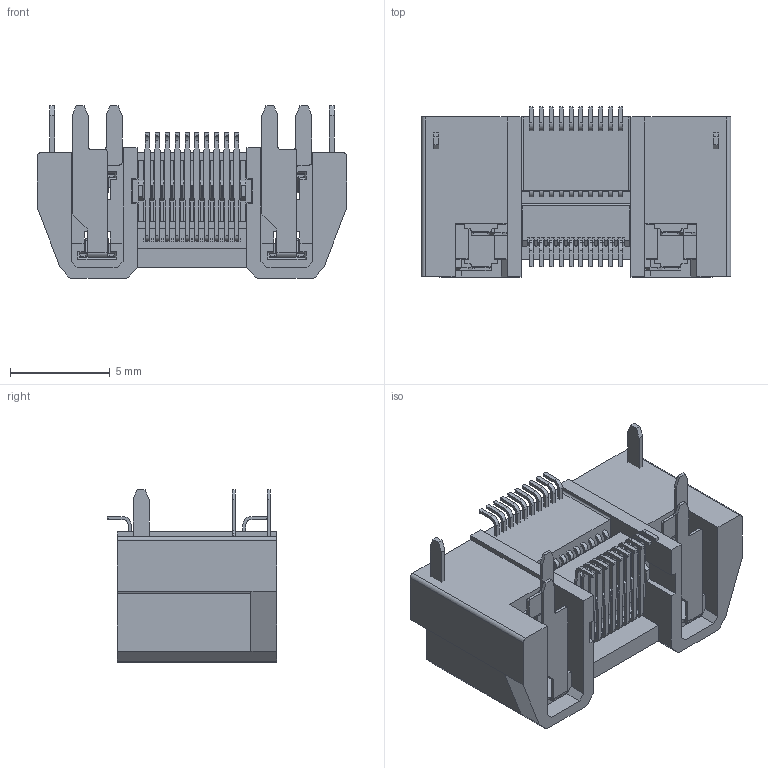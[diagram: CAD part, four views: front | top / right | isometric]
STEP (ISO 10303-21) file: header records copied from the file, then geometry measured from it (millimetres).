
FILE_DESCRIPTION (( 'STEP AP203' ), '1' );
FILE_NAME ('2631-20FG03DRNT-1130828.STEP', '2024-08-28T07:47:41', ( '' ), ( '' ), 'SwSTEP 2.0', 'SolidWorks 2019', '' );
FILE_SCHEMA (( 'CONFIG_CONTROL_DESIGN' ));
Length unit declared in the file: millimetre
Products named in the file (2): 2631-20FG03DRNT-1130828
Assembly tree (1 placements, depth 2):
  2631-20FG03DRNT-1130828
    2631-20FG03DRNT-1130828
Bounding box: 15.5 x 8.5 x 8.65 mm (x, y, z)
Volume: 423.3 mm3; surface area: 1320.4 mm2
Topology: 27 solids, 27 shells, 1745 faces, 4868 edges, 3190 vertices
Faces by surface type: plane 1391, cylinder 354
Entity records: 55186 total; most frequent: CARTESIAN_POINT 10767, ORIENTED_EDGE 9736, DIRECTION 8514, EDGE_CURVE 4868, LINE 4080, VECTOR 4080, VERTEX_POINT 3190, AXIS2_PLACEMENT_3D 2217
